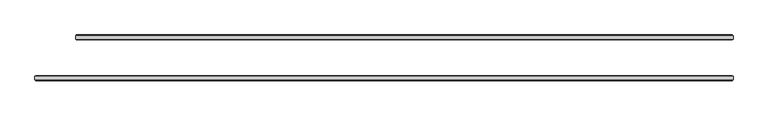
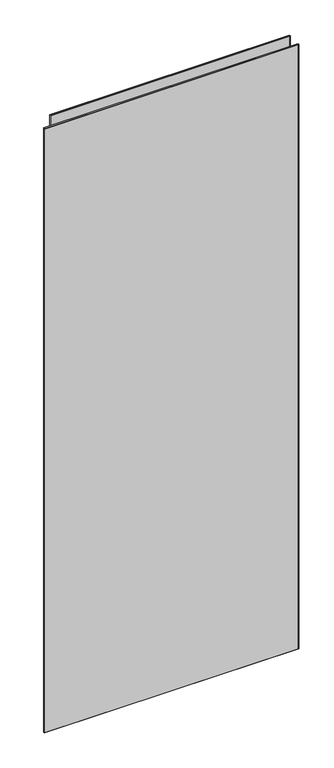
"""IFC4 building model written with IfcOpenShell, lengths in millimetres: plate geometry, 3-AMG-2-Панель двойной витраж 8, 10 : Смещение 32 Толщина 8mm."""

from ifc_helpers import new_model, si_unit, origin, place, context, project, spatial, faceted_brep, source, transform, mapped, element, save


def plate_96b0c57f(model_context):
    return source(origin(), model_context, "Body", "Brep", [
        faceted_brep([(536.5, -34.4961653, 2751.0), (536.5, -29.5038347, 2751.0), (-563.5, -29.5038347, 2751.0), (-563.5, -34.4961653, 2751.0), (536.5, -29.5038347, -7.0), (536.5, -34.4961653, -7.0), (-563.5, -34.4961653, -7.0), (-563.5, -29.5038347, -7.0), (-561.9961653, -28.0, 2749.4961653), (534.9961653, -28.0, 2749.4961653), (534.9961653, -28.0, -5.5039422), (-561.9961653, -28.0, -5.5039422), (534.9961653, -36.0, 2749.4961653), (-561.9961653, -36.0, 2749.4961653), (-561.9961653, -36.0, -5.4961653), (534.9961653, -36.0, -5.4961653)], [[[0, 1, 2, 3]], [[4, 5, 6, 7]], [[8, 9, 10, 11]], [[3, 2, 7, 6]], [[12, 13, 14, 15]], [[1, 0, 5, 4]], [[1, 4, 10, 9]], [[5, 0, 12, 15]], [[0, 3, 13, 12]], [[2, 1, 9, 8]], [[7, 2, 8, 11]], [[3, 6, 14, 13]], [[6, 5, 15, 14]], [[4, 7, 11, 10]]]),
        faceted_brep([(536.5, 29.5038347, 2751.0), (536.5, 34.4961653, 2751.0), (-499.5, 34.4961653, 2751.0), (-499.5, 29.5038347, 2751.0), (536.5, 34.4961653, -7.0), (536.5, 29.5038347, -7.0), (-499.5, 29.5038347, -7.0), (-499.5, 34.4961653, -7.0), (-497.9961653, 36.0, 2749.4961653), (534.9961653, 36.0, 2749.4961653), (534.9961653, 36.0, -5.5039422), (-497.9961653, 36.0, -5.5039422), (534.9961653, 28.0, 2749.4961653), (-497.9961653, 28.0, 2749.4961653), (-497.9961653, 28.0, -5.4961653), (534.9961653, 28.0, -5.4961653)], [[[0, 1, 2, 3]], [[4, 5, 6, 7]], [[8, 9, 10, 11]], [[3, 2, 7, 6]], [[12, 13, 14, 15]], [[1, 0, 5, 4]], [[1, 4, 10, 9]], [[5, 0, 12, 15]], [[7, 2, 8, 11]], [[3, 6, 14, 13]], [[0, 3, 13, 12]], [[2, 1, 9, 8]], [[6, 5, 15, 14]], [[4, 7, 11, 10]]]),
    ])


if __name__ == "__main__":
    model = new_model("IFC4")
    model_context = context("Model", 3, world=origin())
    ifc_project = project(units=[si_unit("LENGTHUNIT", "METRE", prefix="MILLI")], contexts=[model_context])
    site = spatial("IfcSite", under=ifc_project)
    building = spatial("IfcBuilding", under=site)
    placement = place(None, origin())
    plate_shape = plate_96b0c57f(model_context)
    element("IfcPlate", 1, ObjectType="3-AMG-2-Панель двойной витраж 8, 10 : Смещение 32 Толщина 8mm", at=placement, inside=building, context=model_context, shape_type="MappedRepresentation", body=[
        mapped(plate_shape, transform((0.0, 0.0, 0.0), x_axis=(1.0, 0.0, 0.0), y_axis=(0.0, 1.0, 0.0), z_axis=(0.0, 0.0, 1.0))),
    ])
    save(model, "model.ifc")
